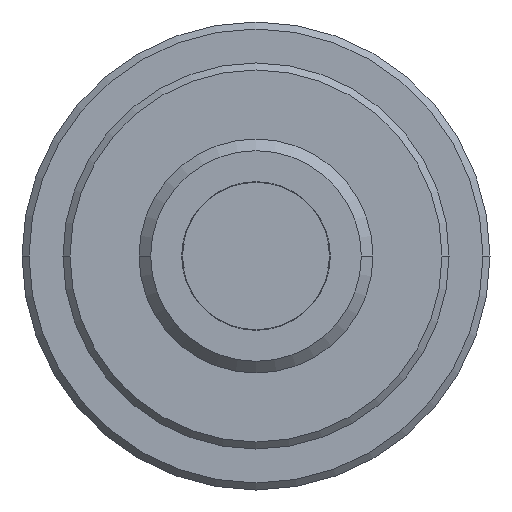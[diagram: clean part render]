
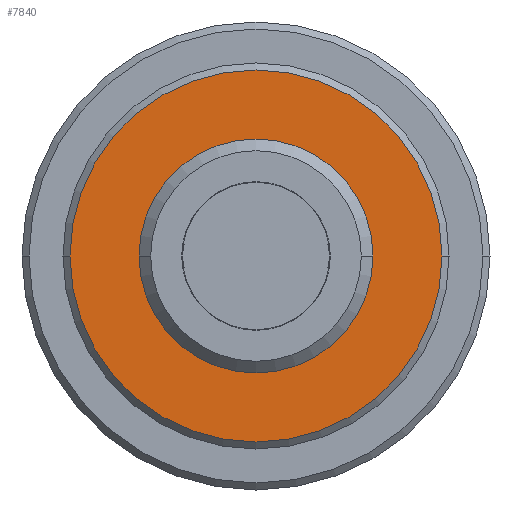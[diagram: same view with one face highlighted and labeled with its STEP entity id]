
A CAD part, left-side view. The second image highlights one B-rep face of the part: STEP entity #7840.
In plain terms, the highlighted planar face has unit normal (-1, 0, 0).
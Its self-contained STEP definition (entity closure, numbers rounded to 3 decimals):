
#7350=CARTESIAN_POINT('',(46.875,-56.186,
0.));
#7360=VERTEX_POINT('',#7350);
#7450=CARTESIAN_POINT('',(46.875,-72.086,0.));
#7460=VERTEX_POINT('',#7450);
#7490=CARTESIAN_POINT('',(46.875,-64.136,0.));
#7500=DIRECTION('',(-1.,0.,-0.));
#7510=DIRECTION('',(0.,1.,0.));
#7520=AXIS2_PLACEMENT_3D('',#7490,#7500,#7510);
#7530=CIRCLE('',#7520,7.95);
#7540=EDGE_CURVE('',#7460,#7360,#7530,.T.);
#7590=CARTESIAN_POINT('',(46.875,-57.711,0.));
#7600=DIRECTION('',(1.,0.,0.));
#7610=DIRECTION('',(0.,-1.,0.));
#7620=AXIS2_PLACEMENT_3D('',#7590,#7600,#7610);
#7630=PLANE('',#7620);
#7640=EDGE_CURVE('',#7360,#7460,#7530,.T.);
#7650=ORIENTED_EDGE('',*,*,#7640,.T.);
#7660=ORIENTED_EDGE('',*,*,#7540,.T.);
#7670=EDGE_LOOP('',(#7660,#7650));
#7680=FACE_OUTER_BOUND('',#7670,.T.);
#7690=CARTESIAN_POINT('',(46.875,-64.136,0.));
#7700=DIRECTION('',(1.,0.,0.));
#7710=DIRECTION('',(0.,-1.,0.));
#7720=AXIS2_PLACEMENT_3D('',#7690,#7700,#7710);
#7730=CIRCLE('',#7720,4.9);
#7740=CARTESIAN_POINT('',(46.875,-59.236,0.));
#7750=VERTEX_POINT('',#7740);
#7760=CARTESIAN_POINT('',(46.875,-69.036,
0.));
#7770=VERTEX_POINT('',#7760);
#7780=EDGE_CURVE('',#7750,#7770,#7730,.T.);
#7790=ORIENTED_EDGE('',*,*,#7780,.T.);
#7800=EDGE_CURVE('',#7770,#7750,#7730,.T.);
#7810=ORIENTED_EDGE('',*,*,#7800,.T.);
#7820=EDGE_LOOP('',(#7810,#7790));
#7830=FACE_BOUND('',#7820,.T.);
#7840=ADVANCED_FACE('',(#7680,#7830),#7630,.F.);
